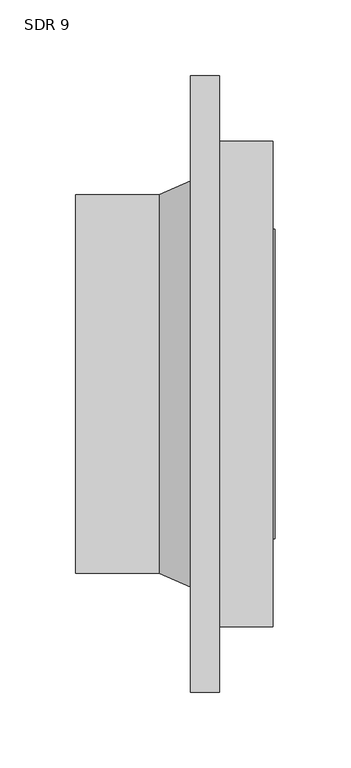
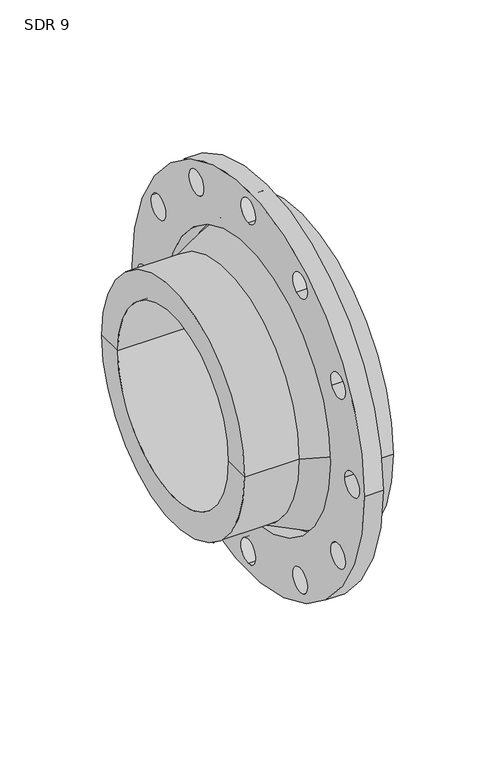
"""IFC4 building model written with IfcOpenShell, lengths in millimetres: valve geometry, Aquatherm - Flange Adapter Butt-Weld : SDR 9."""

from ifc_helpers import new_model, si_unit, point, frame, frame_2d, origin, origin_2d, place, context, project, spatial, polyline, circle_curve, trimmed, segment, composite_curve, outline, extrude, source, transform, mapped, element, save
from ifc_brep_helpers import plane_surface, cylinder_surface, revolved_surface, advanced_brep


def sdr_9_d7e71002(model_context):
    return source(origin(), model_context, "Body", "SolidModel", [
        extrude(outline(composite_curve([segment(trimmed(circle_curve(origin_2d(), 203.2), [point((203.2, 0.0))], [point((-203.2, 0.0))], False, "CARTESIAN"), True, "CONTINUOUS"), segment(trimmed(circle_curve(origin_2d(), 203.2), [point((-203.2, 0.0))], [point((203.2, 0.0))], False, "CARTESIAN"), True, "CONTINUOUS")], self_intersect=False), holes=[composite_curve([segment(trimmed(circle_curve(origin_2d(), 143.51), [point((143.51, 0.0))], [point((-143.51, 0.0))], True, "CARTESIAN"), True, "CONTINUOUS"), segment(trimmed(circle_curve(origin_2d(), 143.51), [point((-143.51, 0.0))], [point((143.51, 0.0))], True, "CARTESIAN"), True, "CONTINUOUS")], self_intersect=False), composite_curve([segment(trimmed(circle_curve(frame_2d((-181.61, 0.0)), 12.7), [point((-168.91, 0.0))], [point((-194.31, 0.0))], True, "CARTESIAN"), True, "CONTINUOUS"), segment(trimmed(circle_curve(frame_2d((-181.61, 0.0)), 12.7), [point((-194.31, 0.0))], [point((-168.91, 0.0))], True, "CARTESIAN"), True, "CONTINUOUS")], self_intersect=False), composite_curve([segment(trimmed(circle_curve(frame_2d((-157.2788736, -90.805)), 12.7), [point((-146.280351, -84.455))], [point((-168.2773962, -97.155))], True, "CARTESIAN"), True, "CONTINUOUS"), segment(trimmed(circle_curve(frame_2d((-157.2788736, -90.805)), 12.7), [point((-168.2773962, -97.155))], [point((-146.280351, -84.455))], True, "CARTESIAN"), True, "CONTINUOUS")], self_intersect=False), composite_curve([segment(trimmed(circle_curve(frame_2d((-157.2788736, 90.805)), 12.7), [point((-146.280351, 84.455))], [point((-168.2773962, 97.155))], True, "CARTESIAN"), True, "CONTINUOUS"), segment(trimmed(circle_curve(frame_2d((-157.2788736, 90.805)), 12.7), [point((-168.2773962, 97.155))], [point((-146.280351, 84.455))], True, "CARTESIAN"), True, "CONTINUOUS")], self_intersect=False), composite_curve([segment(trimmed(circle_curve(frame_2d((-90.805, 157.2788736)), 12.7), [point((-84.455, 146.280351))], [point((-97.155, 168.2773962))], True, "CARTESIAN"), True, "CONTINUOUS"), segment(trimmed(circle_curve(frame_2d((-90.805, 157.2788736)), 12.7), [point((-97.155, 168.2773962))], [point((-84.455, 146.280351))], True, "CARTESIAN"), True, "CONTINUOUS")], self_intersect=False), composite_curve([segment(trimmed(circle_curve(frame_2d((0.0, 181.61)), 12.7), [point((0.0, 168.91))], [point((0.0, 194.31))], True, "CARTESIAN"), True, "CONTINUOUS"), segment(trimmed(circle_curve(frame_2d((0.0, 181.61)), 12.7), [point((0.0, 194.31))], [point((0.0, 168.91))], True, "CARTESIAN"), True, "CONTINUOUS")], self_intersect=False), composite_curve([segment(trimmed(circle_curve(frame_2d((90.805, 157.2788736)), 12.7), [point((84.455, 146.280351))], [point((97.155, 168.2773962))], True, "CARTESIAN"), True, "CONTINUOUS"), segment(trimmed(circle_curve(frame_2d((90.805, 157.2788736)), 12.7), [point((97.155, 168.2773962))], [point((84.455, 146.280351))], True, "CARTESIAN"), True, "CONTINUOUS")], self_intersect=False), composite_curve([segment(trimmed(circle_curve(frame_2d((157.2788736, 90.805)), 12.7), [point((146.280351, 84.455))], [point((168.2773962, 97.155))], True, "CARTESIAN"), True, "CONTINUOUS"), segment(trimmed(circle_curve(frame_2d((157.2788736, 90.805)), 12.7), [point((168.2773962, 97.155))], [point((146.280351, 84.455))], True, "CARTESIAN"), True, "CONTINUOUS")], self_intersect=False), composite_curve([segment(trimmed(circle_curve(frame_2d((181.61, 0.0)), 12.7), [point((168.91, 0.0))], [point((194.31, 0.0))], True, "CARTESIAN"), True, "CONTINUOUS"), segment(trimmed(circle_curve(frame_2d((181.61, 0.0)), 12.7), [point((194.31, 0.0))], [point((168.91, 0.0))], True, "CARTESIAN"), True, "CONTINUOUS")], self_intersect=False), composite_curve([segment(trimmed(circle_curve(frame_2d((157.2788736, -90.805)), 12.7), [point((146.280351, -84.455))], [point((168.2773962, -97.155))], True, "CARTESIAN"), True, "CONTINUOUS"), segment(trimmed(circle_curve(frame_2d((157.2788736, -90.805)), 12.7), [point((168.2773962, -97.155))], [point((146.280351, -84.455))], True, "CARTESIAN"), True, "CONTINUOUS")], self_intersect=False), composite_curve([segment(trimmed(circle_curve(frame_2d((90.805, -157.2788736)), 12.7), [point((84.455, -146.280351))], [point((97.155, -168.2773962))], True, "CARTESIAN"), True, "CONTINUOUS"), segment(trimmed(circle_curve(frame_2d((90.805, -157.2788736)), 12.7), [point((97.155, -168.2773962))], [point((84.455, -146.280351))], True, "CARTESIAN"), True, "CONTINUOUS")], self_intersect=False), composite_curve([segment(trimmed(circle_curve(frame_2d((0.0, -181.61)), 12.7), [point((0.0, -168.91))], [point((0.0, -194.31))], True, "CARTESIAN"), True, "CONTINUOUS"), segment(trimmed(circle_curve(frame_2d((0.0, -181.61)), 12.7), [point((0.0, -194.31))], [point((0.0, -168.91))], True, "CARTESIAN"), True, "CONTINUOUS")], self_intersect=False), composite_curve([segment(trimmed(circle_curve(frame_2d((-90.805, -157.2788736)), 12.7), [point((-84.455, -146.280351))], [point((-97.155, -168.2773962))], True, "CARTESIAN"), True, "CONTINUOUS"), segment(trimmed(circle_curve(frame_2d((-90.805, -157.2788736)), 12.7), [point((-97.155, -168.2773962))], [point((-84.455, -146.280351))], True, "CARTESIAN"), True, "CONTINUOUS")], self_intersect=False)]), frame((-19.05, 0.0, 0.0), z_axis=(1.0, 0.0, 0.0), x_axis=(0.0, 1.0, 0.0)), (0.0, 0.0, 1.0), 19.05),
        advanced_brep(
        [(35.052, -160.02, 0.0), (0.0, -160.02, 0.0), (0.0, 160.02, 0.0), (35.052, 160.02, 0.0), (36.6395, -97.028, 0.0), (36.6395, -102.108, 0.0), (36.6395, 102.108, 0.0), (36.6395, 97.028, 0.0), (-94.996, -97.028, 0.0), (-94.996, 97.028, 0.0), (-94.996, -124.968, 0.0), (-94.996, 124.968, 0.0), (-39.878, -124.968, 0.0), (-39.878, 124.968, 0.0), (0.0, -142.24, 0.0), (0.0, 142.24, 0.0), (35.052, -102.108, 0.0), (35.052, 102.108, 0.0)],
        [
            (0, 1),
            (1, 2, circle_curve(frame((0.0, 0.0, 0.0), z_axis=(1.0, 0.0, 0.0), x_axis=(0.0, 1.0, 0.0)), 160.02)),
            (2, 3),
            (3, 0, circle_curve(frame((35.052, 0.0, 0.0), z_axis=(-1.0, 0.0, 0.0), x_axis=(0.0, 1.0, 0.0)), 160.02)),
            (2, 1, circle_curve(frame((0.0, 0.0, 0.0), z_axis=(1.0, 0.0, 0.0), x_axis=(0.0, 1.0, 0.0)), 160.02)),
            (0, 3, circle_curve(frame((35.052, 0.0, 0.0), z_axis=(-1.0, 0.0, 0.0), x_axis=(0.0, 1.0, 0.0)), 160.02)),
            (4, 5),
            (5, 6, circle_curve(frame((36.6395, 0.0, 0.0), z_axis=(1.0, 0.0, 0.0), x_axis=(0.0, 1.0, 0.0)), 102.108)),
            (6, 7),
            (7, 4, circle_curve(frame((36.6395, 0.0, 0.0), z_axis=(-1.0, 0.0, 0.0), x_axis=(0.0, 1.0, 0.0)), 97.028)),
            (6, 5, circle_curve(frame((36.6395, 0.0, 0.0), z_axis=(1.0, 0.0, 0.0), x_axis=(0.0, 1.0, 0.0)), 102.108)),
            (4, 7, circle_curve(frame((36.6395, 0.0, 0.0), z_axis=(-1.0, 0.0, 0.0), x_axis=(0.0, 1.0, 0.0)), 97.028)),
            (8, 4),
            (7, 9),
            (9, 8, circle_curve(frame((-94.996, 0.0, 0.0), z_axis=(-1.0, 0.0, 0.0), x_axis=(0.0, 1.0, 0.0)), 97.028)),
            (8, 9, circle_curve(frame((-94.996, 0.0, 0.0), z_axis=(-1.0, 0.0, 0.0), x_axis=(0.0, 1.0, 0.0)), 97.028)),
            (10, 8),
            (9, 11),
            (11, 10, circle_curve(frame((-94.996, 0.0, 0.0), z_axis=(-1.0, 0.0, 0.0), x_axis=(0.0, 1.0, 0.0)), 124.968)),
            (10, 11, circle_curve(frame((-94.996, 0.0, 0.0), z_axis=(-1.0, 0.0, 0.0), x_axis=(0.0, 1.0, 0.0)), 124.968)),
            (12, 10),
            (11, 13),
            (13, 12, circle_curve(frame((-39.878, 0.0, 0.0), z_axis=(-1.0, 0.0, 0.0), x_axis=(0.0, 1.0, 0.0)), 124.968)),
            (12, 13, circle_curve(frame((-39.878, 0.0, 0.0), z_axis=(-1.0, 0.0, 0.0), x_axis=(0.0, 1.0, 0.0)), 124.968)),
            (1, 14),
            (14, 15, circle_curve(frame((0.0, 0.0, 0.0), z_axis=(1.0, 0.0, 0.0), x_axis=(0.0, 1.0, 0.0)), 142.24)),
            (15, 2),
            (15, 14, circle_curve(frame((0.0, 0.0, 0.0), z_axis=(1.0, 0.0, 0.0), x_axis=(0.0, 1.0, 0.0)), 142.24)),
            (16, 0),
            (3, 17),
            (17, 16, circle_curve(frame((35.052, 0.0, 0.0), z_axis=(-1.0, 0.0, 0.0), x_axis=(0.0, 1.0, 0.0)), 102.108)),
            (16, 17, circle_curve(frame((35.052, 0.0, 0.0), z_axis=(-1.0, 0.0, 0.0), x_axis=(0.0, 1.0, 0.0)), 102.108)),
            (5, 16),
            (17, 6),
            (14, 12),
            (13, 15),
        ],
        [
            cylinder_surface(frame((1475.6909321, 0.0, 0.0), z_axis=(1.0, 0.0, 0.0), x_axis=(0.0, 1.0, 0.0)), 160.02),
            plane_surface(frame((36.6395, 0.0, 0.0), z_axis=(1.0, 0.0, 0.0), x_axis=(0.0, 1.0, 0.0))),
            revolved_surface(polyline([(36.6395, 97.028, 0.0), (-94.9960000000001, 97.028, 0.0)]), (1475.6909321, 0.0, 0.0), (1.0, 0.0, 0.0)),
            plane_surface(frame((-94.996, 0.0, 0.0), z_axis=(-1.0, 0.0, 0.0), x_axis=(0.0, 1.0, 0.0))),
            cylinder_surface(frame((1475.6909321, 0.0, 0.0), z_axis=(1.0, 0.0, 0.0), x_axis=(0.0, 1.0, 0.0)), 124.968),
            plane_surface(frame((0.0, 0.0, 0.0), z_axis=(-1.0, 0.0, 0.0), x_axis=(0.0, 1.0, 0.0))),
            plane_surface(frame((35.052, 0.0, 0.0), z_axis=(1.0, 0.0, 0.0), x_axis=(0.0, 1.0, 0.0))),
            cylinder_surface(frame((1475.6909321, 0.0, 0.0), z_axis=(1.0, 0.0, 0.0), x_axis=(0.0, 1.0, 0.0)), 102.108),
            revolved_surface(polyline([(-39.878, 124.968, 0.0), (0.0, 142.24, 0.0)]), (1475.6909321, 0.0, 0.0), (1.0, 0.0, 0.0)),
        ],
        [
            (0, [[1, 2, 3, 4]]),
            (0, [[-3, 5, -1, 6]]),
            (1, [[7, 8, 9, 10]]),
            (1, [[-9, 11, -7, 12]]),
            (2, [[13, -10, 14, 15]]),
            (2, [[-14, -12, -13, 16]]),
            (3, [[17, -15, 18, 19]]),
            (3, [[-18, -16, -17, 20]]),
            (4, [[21, -19, 22, 23]]),
            (4, [[-22, -20, -21, 24]]),
            (5, [[25, 26, 27, -2]]),
            (5, [[-27, 28, -25, -5]]),
            (6, [[29, -4, 30, 31]]),
            (6, [[-30, -6, -29, 32]]),
            (7, [[33, -31, 34, -8]]),
            (7, [[-34, -32, -33, -11]]),
            (8, [[35, -23, 36, -26]]),
            (8, [[-36, -24, -35, -28]]),
        ],
    ),
    ])


if __name__ == "__main__":
    model = new_model("IFC4")
    model_context = context("Model", 3, world=origin())
    ifc_project = project(units=[si_unit("LENGTHUNIT", "METRE", prefix="MILLI")], contexts=[model_context])
    site = spatial("IfcSite", under=ifc_project)
    building = spatial("IfcBuilding", under=site)
    placement = place(None, origin())
    sdr_9_shape = sdr_9_d7e71002(model_context)
    element("IfcValve", 1, ObjectType="Aquatherm - Flange Adapter Butt-Weld : SDR 9", at=placement, inside=building, context=model_context, shape_type="MappedRepresentation", body=[
        mapped(sdr_9_shape, transform((0.0, 0.0, 0.0), x_axis=(1.0, 0.0, 0.0), y_axis=(0.0, 1.0, 0.0), z_axis=(0.0, 0.0, 1.0))),
    ])
    save(model, "model.ifc")
